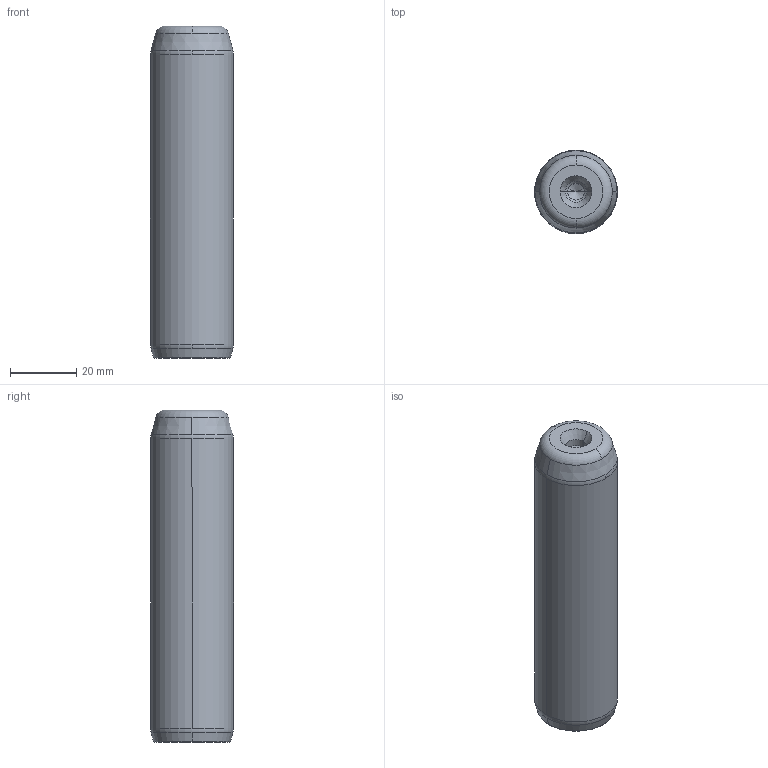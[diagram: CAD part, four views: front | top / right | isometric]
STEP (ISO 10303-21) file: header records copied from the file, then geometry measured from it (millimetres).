
FILE_DESCRIPTION((''),'2;1');
FILE_NAME('P10_025_100.stp','2008-12-23T14:48:29',(''),(''),'Mechanical Desktop 2009','Mechanical Desktop 2009',', , ');
FILE_SCHEMA(('CONFIG_CONTROL_DESIGN'));
Length unit declared in the file: millimetre
Products named in the file (5): Product; ProductAA; blmdl1; ProductA; blmdl1A
Assembly tree (2 placements, depth 3):
  Product
    ProductAA
      blmdl1
  ProductA
  blmdl1A
Bounding box: 25 x 25 x 100 mm (x, y, z)
Volume: 47718.7 mm3; surface area: 8857 mm2
Topology: 1 solids, 1 shells, 26 faces, 66 edges, 41 vertices
Faces by surface type: cone 10, torus 8, cylinder 6, plane 2
Entity records: 1012 total; most frequent: DIRECTION 170, CARTESIAN_POINT 134, ORIENTED_EDGE 128, AXIS2_PLACEMENT_3D 77, EDGE_CURVE 64, CIRCLE 48, VERTEX_POINT 41, EDGE_LOOP 27
